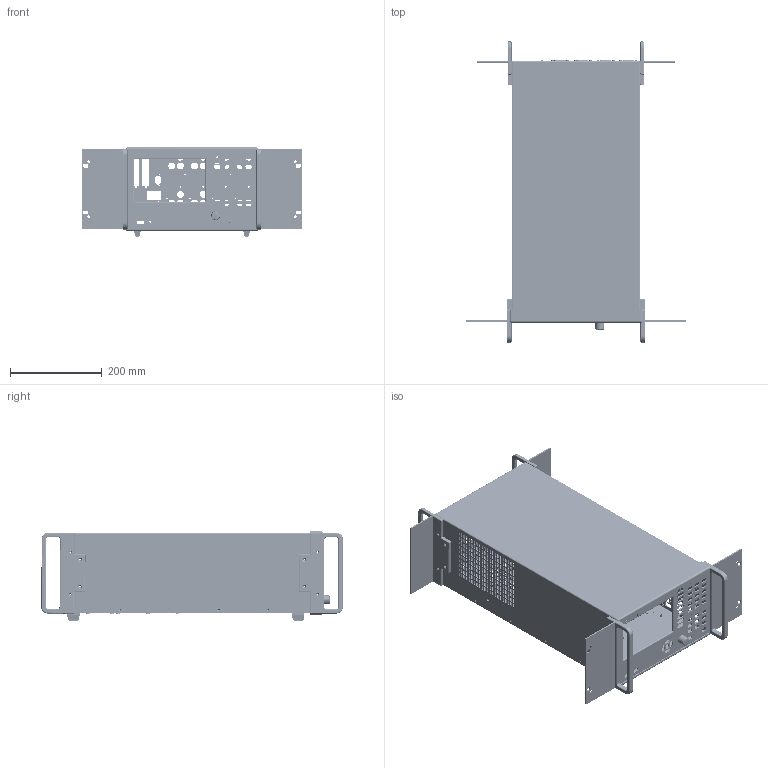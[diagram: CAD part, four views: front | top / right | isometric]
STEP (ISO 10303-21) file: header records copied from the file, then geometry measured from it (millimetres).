
FILE_DESCRIPTION(/* description */ (''),/* implementation_level */ '2;1');
FILE_NAME(/* name */ 'C:\Users\rschatalow\Desktop\MLMG641-a.stp',/* time_stamp */ '2019-12-02T12:23:40+01:00',/* author */ ('rschatalow'),/* organization */ (''),/* preprocessor_version */ 'ST-DEVELOPER v18',/* originating_system */ 'Autodesk Inventor 2020',/* authorisation */ '');
FILE_SCHEMA (('AUTOMOTIVE_DESIGN { 1 0 10303 214 3 1 1 }'));
Products named in the file (38): MLMG641-a; L641CH-d; L64CH-d; S-M3-2 ZI; SO-M3-8 ZI; S-M2.5-2 ZI; F-M2.5-1; SO-M3-3 ZI; L641Deckel-b; L641Deckel-a; F-M4-1; F-M3-1; L6Sensorbus4_b; DCON15F; DCON15F-gehäuse; DCCON15F-Schirm; L641FPR-ALA-a; L641FPR-ALA-a_1; L671FPR-ALA-kurz; L641FPR-ALA-lang-a; L6RWK-b; UNCDSUB; L64RWPC-a; FUSS04-Mentor; L641BW19-a; L671FPBG-b; L641CHFR-a; ML641FP-BG-b; Knopf D20mm; 00007399 - Deckel für ø20_Default; 00010497 - Scheibe; 00010500 - Spannpatrone, Achs- ø6 mm; 00010498 - Mutter; 00006763 - Eindrückbuchse; 00007391 - Knopfkörper geschloßen ø20_Def
ault; L641FP-e; L671FPBG-Rückseite-b; L641BW19-RW-a
Assembly tree (145 placements, depth 4):
  MLMG641-a
    L641CH-d
      L64CH-d
      F-M3-1  x41
      S-M3-2 ZI  x11
      SO-M3-8 ZI  x4
      SO-M3-3 ZI  x2
      F-M2.5-1  x13
      S-M2.5-2 ZI  x2
      F-M4-1  x4
    L641Deckel-b
      L641Deckel-a
      F-M4-1  x8
      F-M3-1  x4
    L6Sensorbus4_b
      DCON15F  x4
        DCON15F-gehäuse
        DCCON15F-Schirm
    L641FPR-ALA-a
      L641FPR-ALA-a_1
      L671FPR-ALA-kurz  x2
      L641FPR-ALA-lang-a  x2
    L6RWK-b  x4
    UNCDSUB  x12
    L64RWPC-a
    FUSS04-Mentor  x4
    L641BW19-a  x2
    L671FPBG-b  x2
    L641CHFR-a
    ML641FP-BG-b
      Knopf D20mm
        00007399 - Deckel für ø20_Default
        00010497 - Scheibe
        00010500 - Spannpatrone, Achs- ø6 mm
        00010498 - Mutter
        00006763 - Eindrückbuchse
        00007391 - Knopfkörper geschloßen ø20_Def
ault
      L641FP-e
    L671FPBG-Rückseite-b  x2
    L641BW19-RW-a  x2
Bounding box: 481.5 x 658.38 x 195.2 mm (x, y, z)
Volume: 1616800 mm3; surface area: 1690037.9 mm2
Topology: 141 solids, 141 shells, 11771 faces, 32873 edges, 22003 vertices
Faces by surface type: plane 6222, cylinder 3582, bspline 1125, cone 534, torus 275, sphere 33
Full cylindrical faces by diameter (mm): 0.6 x60, 0.8 x60, 1 x60, 2.013 x15, 2.459 x62, 2.5 x27, 2.7 x13, 3 x1, 3.1 x16, 3.2 x36, 3.242 x12, 3.4 x6, 3.5 x8, 3.8 x6, 3.87 x58, 4 x12, 4.1 x5, 4.2 x29, 4.22 x13, 4.25 x21, 4.35 x58, 4.4 x84, 4.5 x16, 5.46 x13, 5.5 x5, 6 x2, 6.2 x4, 6.3 x13, 6.5 x34, 6.87 x12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
Entity records: 322170 total; most frequent: CARTESIAN_POINT 73879, ORIENTED_EDGE 53006, DIRECTION 47263, EDGE_CURVE 26503, VERTEX_POINT 17695, LINE 17337, VECTOR 17337, AXIS2_PLACEMENT_3D 14963
